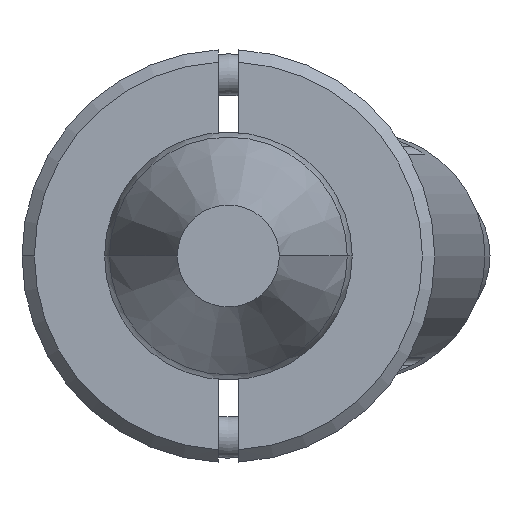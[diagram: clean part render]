
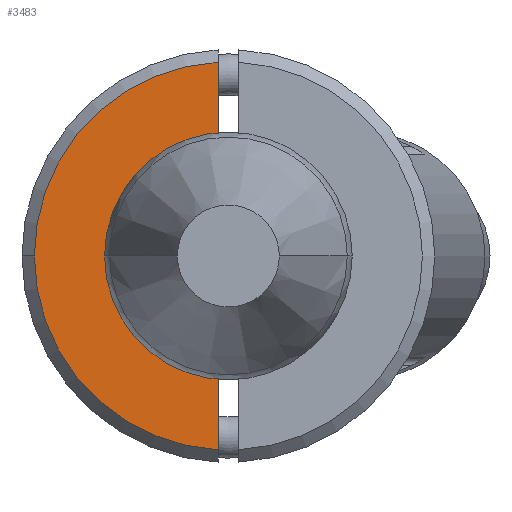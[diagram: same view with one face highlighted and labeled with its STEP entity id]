
A CAD part, front view. The second image highlights one B-rep face of the part: STEP entity #3483.
In plain terms, the highlighted planar face has unit normal (0, -1, 0).
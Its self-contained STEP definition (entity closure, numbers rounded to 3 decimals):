
#8 = ORIENTED_EDGE ( 'NONE', *, *, #1615, .T. ) ;
#45 = CARTESIAN_POINT ( 'NONE',  ( 0., -6., 0. ) ) ;
#124 = EDGE_LOOP ( 'NONE', ( #1772, #3624, #8, #2308, #3734 ) ) ;
#165 = DIRECTION ( 'NONE',  ( -1., 0., 0. ) ) ;
#222 = PLANE ( 'NONE',  #1195 ) ;
#224 = EDGE_CURVE ( 'NONE', #2709, #3528, #972, .T. ) ;
#322 = EDGE_CURVE ( 'NONE', #1581, #3528, #2171, .T. ) ;
#342 = VERTEX_POINT ( 'NONE', #1671 ) ;
#399 = DIRECTION ( 'NONE',  ( 0., 1., 0. ) ) ;
#650 = DIRECTION ( 'NONE',  ( 0., 0., -1. ) ) ;
#660 = DIRECTION ( 'NONE',  ( 0., 0., -1. ) ) ;
#972 = CIRCLE ( 'NONE', #3157, 2.45 ) ;
#989 = AXIS2_PLACEMENT_3D ( 'NONE', #2349, #2487, #660 ) ;
#1195 = AXIS2_PLACEMENT_3D ( 'NONE', #3800, #1435, #2603 ) ;
#1213 = CARTESIAN_POINT ( 'NONE',  ( 2.437, -6., 0.25 ) ) ;
#1283 = CARTESIAN_POINT ( 'NONE',  ( -4.693, -6., 0.25 ) ) ;
#1415 = CIRCLE ( 'NONE', #989, 4.7 ) ;
#1435 = DIRECTION ( 'NONE',  ( 0., -1., 0. ) ) ;
#1436 = VERTEX_POINT ( 'NONE', #1283 ) ;
#1581 = VERTEX_POINT ( 'NONE', #3253 ) ;
#1615 = EDGE_CURVE ( 'NONE', #342, #1436, #1415, .T. ) ;
#1633 = CARTESIAN_POINT ( 'NONE',  ( -2.437, -6., 0.25 ) ) ;
#1671 = CARTESIAN_POINT ( 'NONE',  ( 0., -6., 4.7 ) ) ;
#1772 = ORIENTED_EDGE ( 'NONE', *, *, #322, .F. ) ;
#1816 = AXIS2_PLACEMENT_3D ( 'NONE', #2485, #3060, #2507 ) ;
#2095 = EDGE_CURVE ( 'NONE', #2709, #1436, #3186, .T. ) ;
#2171 = LINE ( 'NONE', #3435, #2958 ) ;
#2300 = DIRECTION ( 'NONE',  ( -1., 0., 0. ) ) ;
#2308 = ORIENTED_EDGE ( 'NONE', *, *, #2095, .F. ) ;
#2349 = CARTESIAN_POINT ( 'NONE',  ( 0., -6., 0. ) ) ;
#2485 = CARTESIAN_POINT ( 'NONE',  ( 0., -6., 0. ) ) ;
#2487 = DIRECTION ( 'NONE',  ( 0., -1., 0. ) ) ;
#2507 = DIRECTION ( 'NONE',  ( 0., 0., -1. ) ) ;
#2603 = DIRECTION ( 'NONE',  ( 0., 0., -1. ) ) ;
#2709 = VERTEX_POINT ( 'NONE', #1633 ) ;
#2799 = VECTOR ( 'NONE', #2300, 1000. ) ;
#2958 = VECTOR ( 'NONE', #165, 1000. ) ;
#3060 = DIRECTION ( 'NONE',  ( 0., -1., 0. ) ) ;
#3157 = AXIS2_PLACEMENT_3D ( 'NONE', #45, #399, #650 ) ;
#3186 = LINE ( 'NONE', #3227, #2799 ) ;
#3201 = FACE_OUTER_BOUND ( 'NONE', #124, .T. ) ;
#3227 = CARTESIAN_POINT ( 'NONE',  ( -5., -6., 0.25 ) ) ;
#3253 = CARTESIAN_POINT ( 'NONE',  ( 4.693, -6., 0.25 ) ) ;
#3435 = CARTESIAN_POINT ( 'NONE',  ( -5., -6., 0.25 ) ) ;
#3483 = ADVANCED_FACE ( 'NONE', ( #3201 ), #222, .T. ) ;
#3502 = CIRCLE ( 'NONE', #1816, 4.7 ) ;
#3528 = VERTEX_POINT ( 'NONE', #1213 ) ;
#3624 = ORIENTED_EDGE ( 'NONE', *, *, #3679, .T. ) ;
#3679 = EDGE_CURVE ( 'NONE', #1581, #342, #3502, .T. ) ;
#3734 = ORIENTED_EDGE ( 'NONE', *, *, #224, .T. ) ;
#3800 = CARTESIAN_POINT ( 'NONE',  ( -5., -6., 0. ) ) ;
